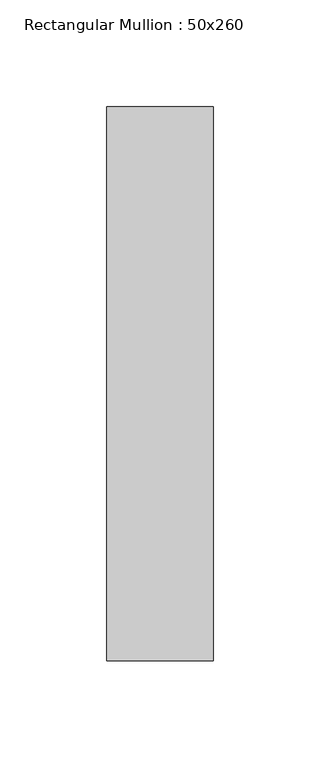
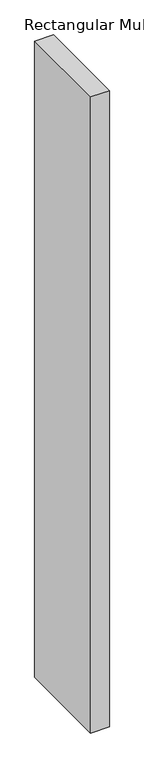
"""IFC4 building model written with IfcOpenShell, lengths in millimetres: member geometry, Rectangular Mullion : 50x260."""

from ifc_helpers import new_model, si_unit, frame, origin, place, context, project, spatial, polyline, outline, extrude, source, transform, mapped, element, save


def rectangular_mullion_50x260_bbff8baf(model_context):
    return source(origin(), model_context, "Body", "SweptSolid", [
        extrude(outline(polyline([(0.0, 130.0), (0.0, -130.0), (-50.0, -130.0), (-50.0, 130.0), (0.0, 130.0)])), frame((0.0, 0.0, -1804.3492721), z_axis=(0.0, 0.0, 1.0), x_axis=(1.0, 0.0, 0.0)), (0.0, 0.0, 1.0), 1804.3492721),
    ])


if __name__ == "__main__":
    model = new_model("IFC4")
    model_context = context("Model", 3, world=origin())
    ifc_project = project(units=[si_unit("LENGTHUNIT", "METRE", prefix="MILLI")], contexts=[model_context])
    site = spatial("IfcSite", under=ifc_project)
    building = spatial("IfcBuilding", under=site)
    placement = place(None, origin())
    rectangular_mullion_50x260_shape = rectangular_mullion_50x260_bbff8baf(model_context)
    element("IfcMember", 1, ObjectType="Rectangular Mullion : 50x260", at=placement, inside=building, context=model_context, shape_type="MappedRepresentation", body=[
        mapped(rectangular_mullion_50x260_shape, transform((0.0, 0.0, 0.0), x_axis=(1.0, 0.0, 0.0), y_axis=(0.0, 1.0, 0.0), z_axis=(0.0, 0.0, 1.0))),
    ])
    save(model, "model.ifc")
